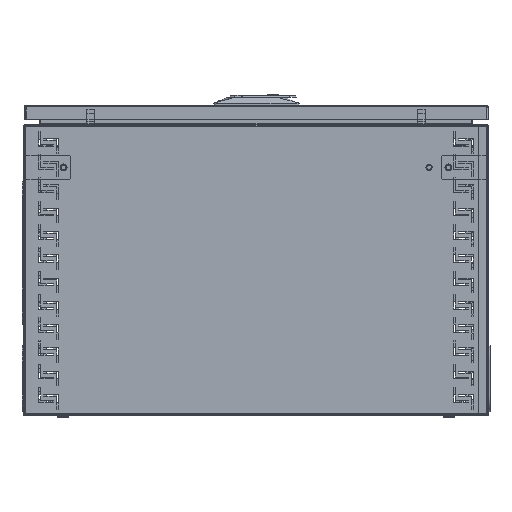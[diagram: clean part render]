
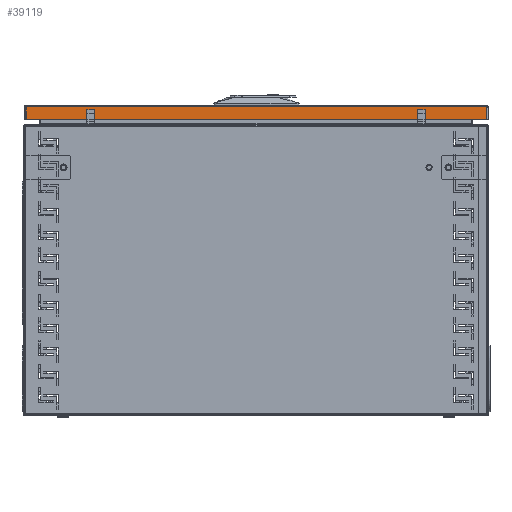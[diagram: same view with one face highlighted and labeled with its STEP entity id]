
A CAD part, left-side view. The second image highlights one B-rep face of the part: STEP entity #39119.
In plain terms, the highlighted planar face has unit normal (-1, 0, 0) as drawn and (1, 0, 0) by its records, which use the part's own axes.
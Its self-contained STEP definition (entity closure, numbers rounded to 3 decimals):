
#2372 = ORIENTED_EDGE ( 'NONE', *, *, #62020, .T. ) ;
#4498 = ORIENTED_EDGE ( 'NONE', *, *, #21097, .T. ) ;
#16132 = CARTESIAN_POINT ( 'NONE',  ( 298.5, -296.4, 18.5 ) ) ;
#20213 = CARTESIAN_POINT ( 'NONE',  ( 298.5, 296.4, 18.5 ) ) ;
#21097 = EDGE_CURVE ( 'NONE', #57866, #103193, #109477, .T. ) ;
#24089 = EDGE_CURVE ( 'NONE', #71486, #57866, #57282, .T. ) ;
#25370 = PLANE ( 'NONE',  #96481 ) ;
#25887 = ORIENTED_EDGE ( 'NONE', *, *, #24089, .T. ) ;
#34549 = ORIENTED_EDGE ( 'NONE', *, *, #121871, .F. ) ;
#39119 = ADVANCED_FACE ( 'NONE', ( #128415 ), #25370, .F. ) ;
#41900 = DIRECTION ( 'NONE',  ( 0., -1., 0. ) ) ;
#47542 = DIRECTION ( 'NONE',  ( 0., 0., 1. ) ) ;
#48933 = DIRECTION ( 'NONE',  ( 0., -1., 0. ) ) ;
#57282 = LINE ( 'NONE', #16132, #138203 ) ;
#57488 = CARTESIAN_POINT ( 'NONE',  ( 298.5, 296.4, 18.5 ) ) ;
#57866 = VERTEX_POINT ( 'NONE', #72623 ) ;
#62020 = EDGE_CURVE ( 'NONE', #69116, #71486, #104581, .T. ) ;
#62887 = DIRECTION ( 'NONE',  ( 0., 0., -1. ) ) ;
#63776 = EDGE_LOOP ( 'NONE', ( #34549, #2372, #25887, #4498 ) ) ;
#64030 = CARTESIAN_POINT ( 'NONE',  ( 298.5, -296.4, 2.1 ) ) ;
#69116 = VERTEX_POINT ( 'NONE', #93637 ) ;
#71486 = VERTEX_POINT ( 'NONE', #57488 ) ;
#72623 = CARTESIAN_POINT ( 'NONE',  ( 298.5, -296.4, 18.5 ) ) ;
#75289 = VECTOR ( 'NONE', #97326, 1000. ) ;
#85038 = CARTESIAN_POINT ( 'NONE',  ( 298.5, -296.4, 1.5 ) ) ;
#93637 = CARTESIAN_POINT ( 'NONE',  ( 298.5, 296.4, 2.1 ) ) ;
#96481 = AXIS2_PLACEMENT_3D ( 'NONE', #102453, #113474, #47542 ) ;
#97326 = DIRECTION ( 'NONE',  ( 0., 0., 1. ) ) ;
#102453 = CARTESIAN_POINT ( 'NONE',  ( 298.5, -296.4, 18.5 ) ) ;
#102655 = CARTESIAN_POINT ( 'NONE',  ( 298.5, -296.4, 2.1 ) ) ;
#103193 = VERTEX_POINT ( 'NONE', #102655 ) ;
#104581 = LINE ( 'NONE', #20213, #75289 ) ;
#106023 = VECTOR ( 'NONE', #62887, 1000. ) ;
#109477 = LINE ( 'NONE', #85038, #106023 ) ;
#113474 = DIRECTION ( 'NONE',  ( -1., 0., 0. ) ) ;
#121871 = EDGE_CURVE ( 'NONE', #69116, #103193, #138241, .T. ) ;
#128415 = FACE_OUTER_BOUND ( 'NONE', #63776, .T. ) ;
#131314 = VECTOR ( 'NONE', #41900, 1000. ) ;
#138203 = VECTOR ( 'NONE', #48933, 1000. ) ;
#138241 = LINE ( 'NONE', #64030, #131314 ) ;
